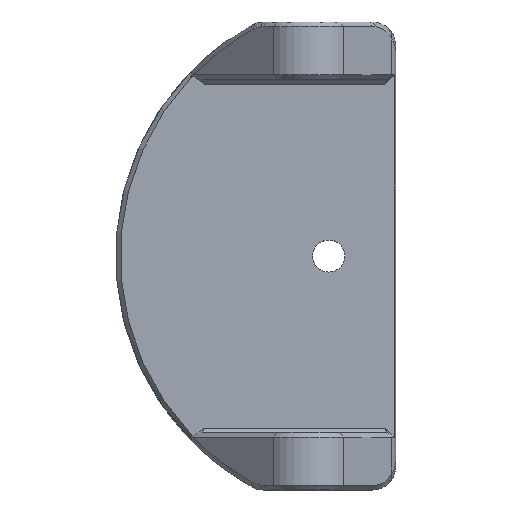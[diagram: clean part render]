
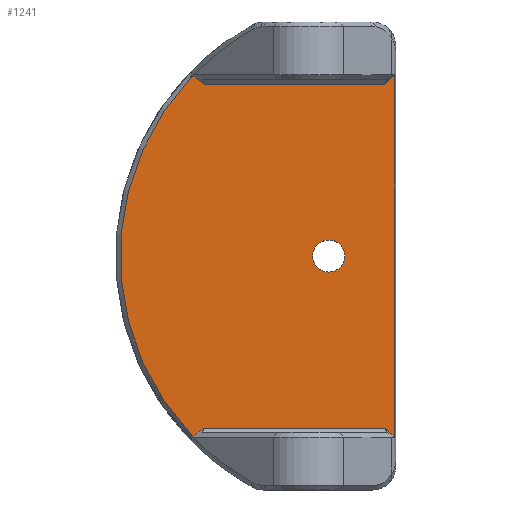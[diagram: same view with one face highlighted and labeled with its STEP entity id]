
A CAD part, top view. The second image highlights one B-rep face of the part: STEP entity #1241.
In plain terms, the highlighted planar face has unit normal (0, 0, 1).
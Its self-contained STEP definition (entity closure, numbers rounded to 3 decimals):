
#59=FACE_BOUND('',#216,.T.);
#65=CIRCLE('',#1330,56.5);
#66=CIRCLE('',#1331,3.5);
#94=B_SPLINE_CURVE_WITH_KNOTS('',3,(#1739,#1740,#1741,#1742),
 .UNSPECIFIED.,.F.,.F.,(4,4),(-0.375,-0.34),
 .UNSPECIFIED.);
#95=B_SPLINE_CURVE_WITH_KNOTS('',3,(#1749,#1750,#1751,#1752),
 .UNSPECIFIED.,.F.,.F.,(4,4),(-0.328,-0.293),
 .UNSPECIFIED.);
#141=FACE_OUTER_BOUND('',#215,.T.);
#215=EDGE_LOOP('',(#831,#832,#833,#834,#835,#836,#837,#838,#839,#840,#841,
#842,#843,#844));
#216=EDGE_LOOP('',(#845));
#294=LINE('',#1707,#402);
#298=LINE('',#1715,#406);
#299=LINE('',#1725,#407);
#300=LINE('',#1735,#408);
#301=LINE('',#1737,#409);
#302=LINE('',#1744,#410);
#303=LINE('',#1748,#411);
#402=VECTOR('',#1419,10.);
#406=VECTOR('',#1425,10.);
#407=VECTOR('',#1426,10.);
#408=VECTOR('',#1427,10.);
#409=VECTOR('',#1428,10.);
#410=VECTOR('',#1429,10.);
#411=VECTOR('',#1432,10.);
#511=(
BOUNDED_CURVE()
B_SPLINE_CURVE(2,(#1717,#1718,#1719),.UNSPECIFIED.,.F.,.F.)
B_SPLINE_CURVE_WITH_KNOTS((3,3),(1.26,1.357),
 .UNSPECIFIED.)
CURVE()
GEOMETRIC_REPRESENTATION_ITEM()
RATIONAL_B_SPLINE_CURVE((1.656,1.519,1.359))
REPRESENTATION_ITEM('')
);
#512=(
BOUNDED_CURVE()
B_SPLINE_CURVE(2,(#1721,#1722,#1723),.UNSPECIFIED.,.F.,.F.)
B_SPLINE_CURVE_WITH_KNOTS((3,3),(0.,0.146),.UNSPECIFIED.)
CURVE()
GEOMETRIC_REPRESENTATION_ITEM()
RATIONAL_B_SPLINE_CURVE((1.,1.007,1.))
REPRESENTATION_ITEM('')
);
#513=(
BOUNDED_CURVE()
B_SPLINE_CURVE(2,(#1727,#1728,#1729),.UNSPECIFIED.,.F.,.F.)
B_SPLINE_CURVE_WITH_KNOTS((3,3),(0.,0.146),.UNSPECIFIED.)
CURVE()
GEOMETRIC_REPRESENTATION_ITEM()
RATIONAL_B_SPLINE_CURVE((1.,1.007,1.))
REPRESENTATION_ITEM('')
);
#514=(
BOUNDED_CURVE()
B_SPLINE_CURVE(2,(#1731,#1732,#1733),.UNSPECIFIED.,.F.,.F.)
B_SPLINE_CURVE_WITH_KNOTS((3,3),(0.1,0.197),
 .UNSPECIFIED.)
CURVE()
GEOMETRIC_REPRESENTATION_ITEM()
RATIONAL_B_SPLINE_CURVE((1.359,1.519,1.656))
REPRESENTATION_ITEM('')
);
#517=VERTEX_POINT('',#1702);
#518=VERTEX_POINT('',#1706);
#521=VERTEX_POINT('',#1714);
#522=VERTEX_POINT('',#1716);
#523=VERTEX_POINT('',#1720);
#524=VERTEX_POINT('',#1724);
#525=VERTEX_POINT('',#1726);
#526=VERTEX_POINT('',#1730);
#527=VERTEX_POINT('',#1734);
#528=VERTEX_POINT('',#1736);
#529=VERTEX_POINT('',#1738);
#530=VERTEX_POINT('',#1743);
#531=VERTEX_POINT('',#1745);
#532=VERTEX_POINT('',#1747);
#533=VERTEX_POINT('',#1753);
#636=EDGE_CURVE('',#517,#518,#294,.T.);
#640=EDGE_CURVE('',#518,#521,#298,.T.);
#641=EDGE_CURVE('',#517,#522,#511,.T.);
#642=EDGE_CURVE('',#523,#522,#512,.F.);
#643=EDGE_CURVE('',#524,#523,#299,.T.);
#644=EDGE_CURVE('',#525,#524,#513,.F.);
#645=EDGE_CURVE('',#525,#526,#514,.T.);
#646=EDGE_CURVE('',#527,#526,#300,.T.);
#647=EDGE_CURVE('',#527,#528,#301,.T.);
#648=EDGE_CURVE('',#528,#529,#94,.T.);
#649=EDGE_CURVE('',#529,#530,#302,.T.);
#650=EDGE_CURVE('',#531,#530,#65,.T.);
#651=EDGE_CURVE('',#531,#532,#303,.T.);
#652=EDGE_CURVE('',#532,#521,#95,.T.);
#653=EDGE_CURVE('',#533,#533,#66,.T.);
#831=ORIENTED_EDGE('',*,*,#640,.F.);
#832=ORIENTED_EDGE('',*,*,#636,.F.);
#833=ORIENTED_EDGE('',*,*,#641,.T.);
#834=ORIENTED_EDGE('',*,*,#642,.F.);
#835=ORIENTED_EDGE('',*,*,#643,.F.);
#836=ORIENTED_EDGE('',*,*,#644,.F.);
#837=ORIENTED_EDGE('',*,*,#645,.T.);
#838=ORIENTED_EDGE('',*,*,#646,.F.);
#839=ORIENTED_EDGE('',*,*,#647,.T.);
#840=ORIENTED_EDGE('',*,*,#648,.T.);
#841=ORIENTED_EDGE('',*,*,#649,.T.);
#842=ORIENTED_EDGE('',*,*,#650,.F.);
#843=ORIENTED_EDGE('',*,*,#651,.T.);
#844=ORIENTED_EDGE('',*,*,#652,.T.);
#845=ORIENTED_EDGE('',*,*,#653,.F.);
#1209=PLANE('',#1329);
#1241=ADVANCED_FACE('',(#141,#59),#1209,.T.);
#1329=AXIS2_PLACEMENT_3D('',#1713,#1423,#1424);
#1330=AXIS2_PLACEMENT_3D('',#1746,#1430,#1431);
#1331=AXIS2_PLACEMENT_3D('',#1754,#1433,#1434);
#1419=DIRECTION('',(-1.,0.,0.));
#1423=DIRECTION('center_axis',(0.,0.,1.));
#1424=DIRECTION('ref_axis',(1.,0.,0.));
#1425=DIRECTION('',(-0.819,-0.573,0.));
#1426=DIRECTION('',(0.,-1.,0.));
#1427=DIRECTION('',(1.,0.,0.));
#1428=DIRECTION('',(-0.819,0.573,0.));
#1429=DIRECTION('',(0.,-1.,0.));
#1430=DIRECTION('center_axis',(0.,0.,-1.));
#1431=DIRECTION('ref_axis',(-1.,0.,0.));
#1432=DIRECTION('',(0.,-1.,0.));
#1433=DIRECTION('center_axis',(0.,0.,1.));
#1434=DIRECTION('ref_axis',(1.,0.,0.));
#1702=CARTESIAN_POINT('',(67.112,12.5,4.5));
#1706=CARTESIAN_POINT('',(27.857,12.5,4.5));
#1707=CARTESIAN_POINT('',(36.14,12.5,4.5));
#1713=CARTESIAN_POINT('Origin',(25.,0.,4.5));
#1714=CARTESIAN_POINT('',(25.156,10.609,4.5));
#1715=CARTESIAN_POINT('',(25.325,10.728,4.5));
#1716=CARTESIAN_POINT('',(68.236,11.5,4.5));
#1717=CARTESIAN_POINT('Ctrl Pts',(67.112,12.5,4.5));
#1718=CARTESIAN_POINT('Ctrl Pts',(67.594,12.09,4.5));
#1719=CARTESIAN_POINT('Ctrl Pts',(68.236,11.5,4.5));
#1720=CARTESIAN_POINT('',(69.305,10.5,4.5));
#1721=CARTESIAN_POINT('Ctrl Pts',(68.236,11.5,4.5));
#1722=CARTESIAN_POINT('Ctrl Pts',(68.711,11.063,4.5));
#1723=CARTESIAN_POINT('Ctrl Pts',(69.305,10.5,4.5));
#1724=CARTESIAN_POINT('',(69.305,89.5,4.5));
#1725=CARTESIAN_POINT('',(69.305,50.,4.5));
#1726=CARTESIAN_POINT('',(68.236,88.5,4.5));
#1727=CARTESIAN_POINT('Ctrl Pts',(69.305,89.5,4.5));
#1728=CARTESIAN_POINT('Ctrl Pts',(68.711,88.937,4.5));
#1729=CARTESIAN_POINT('Ctrl Pts',(68.236,88.5,4.5));
#1730=CARTESIAN_POINT('',(67.112,87.5,4.5));
#1731=CARTESIAN_POINT('Ctrl Pts',(68.236,88.5,4.5));
#1732=CARTESIAN_POINT('Ctrl Pts',(67.594,87.91,4.5));
#1733=CARTESIAN_POINT('Ctrl Pts',(67.112,87.5,4.5));
#1734=CARTESIAN_POINT('',(27.857,87.5,4.5));
#1735=CARTESIAN_POINT('',(36.14,87.5,4.5));
#1736=CARTESIAN_POINT('',(25.156,89.391,4.5));
#1737=CARTESIAN_POINT('',(48.815,72.831,4.5));
#1738=CARTESIAN_POINT('',(25.,89.074,4.5));
#1739=CARTESIAN_POINT('Ctrl Pts',(25.156,89.391,4.5));
#1740=CARTESIAN_POINT('Ctrl Pts',(25.104,89.285,4.5));
#1741=CARTESIAN_POINT('Ctrl Pts',(25.052,89.18,4.5));
#1742=CARTESIAN_POINT('Ctrl Pts',(25.,89.074,4.5));
#1743=CARTESIAN_POINT('',(25.,88.875,4.5));
#1744=CARTESIAN_POINT('',(25.,50.,4.5));
#1745=CARTESIAN_POINT('',(25.,11.125,4.5));
#1746=CARTESIAN_POINT('Origin',(66.,50.,4.5));
#1747=CARTESIAN_POINT('',(25.,10.926,4.5));
#1748=CARTESIAN_POINT('',(25.,0.,4.5));
#1749=CARTESIAN_POINT('Ctrl Pts',(25.,10.926,4.5));
#1750=CARTESIAN_POINT('Ctrl Pts',(25.052,10.82,4.5));
#1751=CARTESIAN_POINT('Ctrl Pts',(25.104,10.715,4.5));
#1752=CARTESIAN_POINT('Ctrl Pts',(25.156,10.609,4.5));
#1753=CARTESIAN_POINT('',(51.5,50.,4.5));
#1754=CARTESIAN_POINT('Origin',(55.,50.,4.5));
